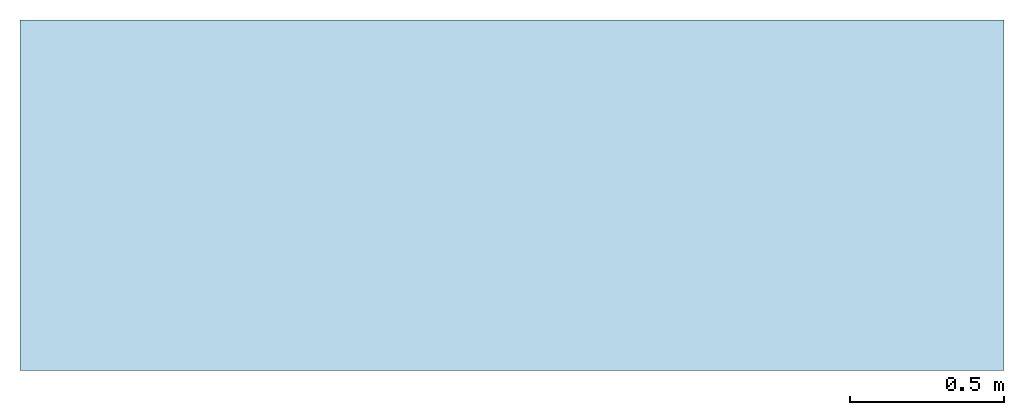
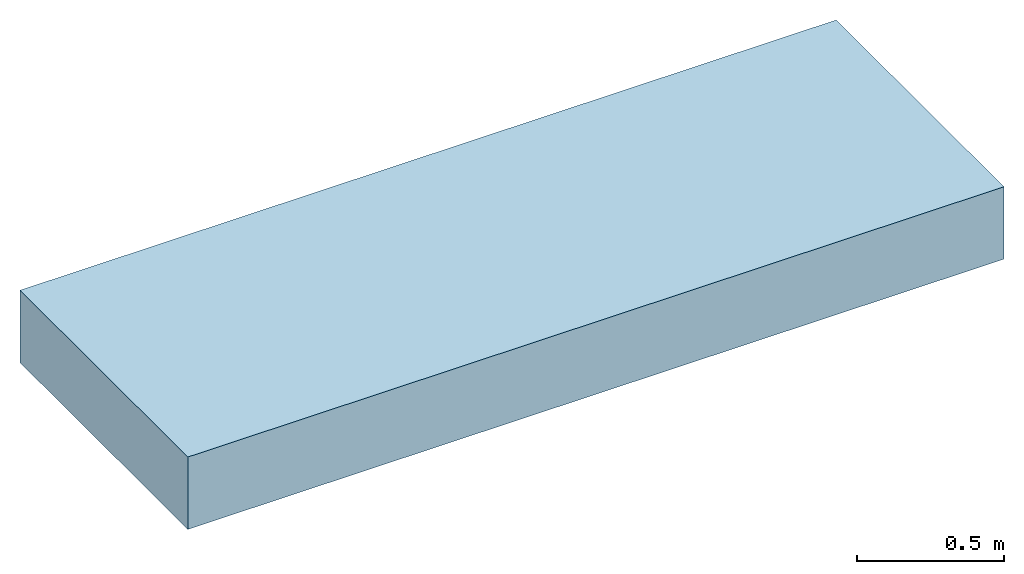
# One storey: 1 slab.
"""IFC2X3 building model written with IfcOpenShell, lengths in metres."""

from ifc_helpers import new_model, entity, si_unit, converted_unit, derived_unit, direction, frame, origin, origin_2d_with_axis, place, context, subcontext, project, spatial, rectangle, extrude, material, layer, layer_set, layer_usage, type_object, element, save


model = new_model("IFC2X3")

# Units and contexts
model_context = context("Model", 3, precision=1e-05, world=origin(), true_north=direction((6.123031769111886e-17, 1.0)))
body_context = subcontext(model_context, "Body", "Model", "MODEL_VIEW")
ifc_project = project(units=[si_unit("LENGTHUNIT", "METRE"), si_unit("AREAUNIT", "SQUARE_METRE"), converted_unit("PLANEANGLEUNIT", "DEGREE", entity("IfcPlaneAngleMeasure", 0.017453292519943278), si_unit("PLANEANGLEUNIT", "RADIAN"), dimensions=[0, 0, 0, 0, 0, 0, 0]), si_unit("VOLUMEUNIT", "CUBIC_METRE"), derived_unit("THERMALTRANSMITTANCEUNIT", [(si_unit("MASSUNIT", "GRAM", prefix="KILO"), 1), (si_unit("THERMODYNAMICTEMPERATUREUNIT", "KELVIN"), -1), (si_unit("TIMEUNIT", "SECOND"), -3)]), derived_unit("USERDEFINED", [(si_unit("MASSUNIT", "GRAM", prefix="KILO"), 1), (si_unit("THERMODYNAMICTEMPERATUREUNIT", "KELVIN"), -1), (si_unit("TIMEUNIT", "SECOND"), -2)]), derived_unit("THERMALRESISTANCEUNIT", [(si_unit("MASSUNIT", "GRAM", prefix="KILO"), -1), (si_unit("TIMEUNIT", "SECOND"), 3), (si_unit("THERMODYNAMICTEMPERATUREUNIT", "KELVIN"), 1)]), derived_unit("MASSDENSITYUNIT", [(si_unit("MASSUNIT", "GRAM", prefix="KILO"), 1), (si_unit("LENGTHUNIT", "METRE"), -3)]), derived_unit("VAPORPERMEABILITYUNIT", [(si_unit("LENGTHUNIT", "METRE"), -1), (si_unit("TIMEUNIT", "SECOND"), 1)]), derived_unit("USERDEFINED", [(si_unit("MASSUNIT", "GRAM", prefix="KILO"), 1), (si_unit("TIMEUNIT", "SECOND"), -3), (si_unit("LENGTHUNIT", "METRE"), 3), (si_unit("ELECTRICCURRENTUNIT", "AMPERE"), -2)]), si_unit("PRESSUREUNIT", "PASCAL")], contexts=[model_context])

# Site, building, storey
site_placement = place(None, origin())
site = spatial("IfcSite", under=ifc_project, at=site_placement, Name="Default", CompositionType="ELEMENT")
building_placement = place(site_placement, origin())
building = spatial("IfcBuilding", under=site, at=building_placement, CompositionType="ELEMENT")
storey_placement = place(building_placement, frame((0.0, 0.0, 3.0)))
storey = spatial("IfcBuildingStorey", under=building, at=storey_placement, Name="L1", CompositionType="ELEMENT", Elevation=3.0000000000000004)

# Slab
ifc_material = material(Name="DPG_Losa Principal Obra")
ifc_layer = layer(ifc_material, 0.30000000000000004)
ifc_layer_set = layer_set([ifc_layer], Name="Suelo:DPG_Losa Principal Obra")
ifc_layer_usage = layer_usage(ifc_layer_set, "AXIS3", "POSITIVE", 0.0)
slab_type = type_object("IfcSlabType", Name="Suelo:DPG_Losa Principal Obra", PredefinedType="FLOOR", material=ifc_layer_set)
slab_placement = place(storey_placement, origin())
element("IfcSlab", 1, at=slab_placement, inside=storey, type_object=slab_type, material=ifc_layer_usage, Name="Suelo:DPG_Losa Principal Obra", ObjectType="Suelo:DPG_Losa Principal Obra", PredefinedType="FLOOR", context=body_context, shape_type="SweptSolid", body=[
    extrude(rectangle(XDim=1.1400000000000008, YDim=3.2, at=origin_2d_with_axis()), frame((6.287720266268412, 15.364530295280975, 0.019999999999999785), z_axis=(0.0, 0.0, -1.0), x_axis=(0.0, 1.0, 0.0)), (0.0, 0.0, 1.0), 0.30000000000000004),
])

save(model, "model.ifc")
